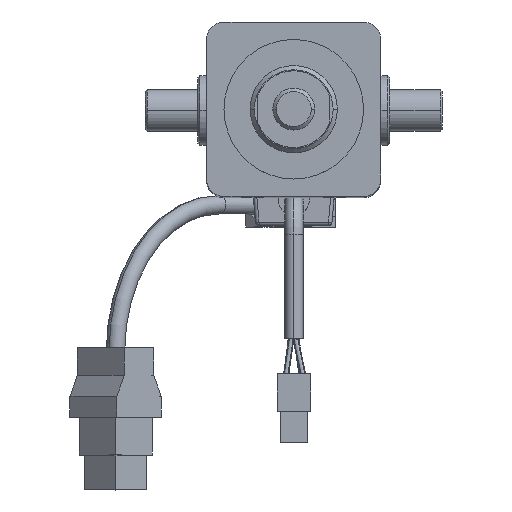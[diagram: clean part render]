
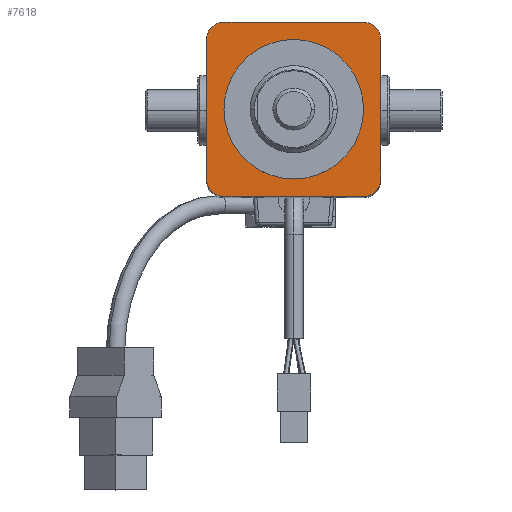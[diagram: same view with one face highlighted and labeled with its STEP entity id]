
A CAD part, top view. The second image highlights one B-rep face of the part: STEP entity #7618.
In plain terms, the highlighted planar face has unit normal (0, 0, 1).
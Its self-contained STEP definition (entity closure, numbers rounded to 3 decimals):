
#135 = AXIS2_PLACEMENT_3D ( 'NONE', #20269, #7885, #18479 ) ;
#388 = LINE ( 'NONE', #9747, #2814 ) ;
#612 = ORIENTED_EDGE ( 'NONE', *, *, #8496, .T. ) ;
#835 = DIRECTION ( 'NONE',  ( -1., 0., 0. ) ) ;
#995 = EDGE_CURVE ( 'NONE', #19955, #9451, #9742, .T. ) ;
#1802 = ORIENTED_EDGE ( 'NONE', *, *, #2890, .T. ) ;
#1936 = CARTESIAN_POINT ( 'NONE',  ( -20., 25., 182. ) ) ;
#2592 = ORIENTED_EDGE ( 'NONE', *, *, #995, .T. ) ;
#2648 = DIRECTION ( 'NONE',  ( 0., 0., 1. ) ) ;
#2724 = CARTESIAN_POINT ( 'NONE',  ( 20., 20., 182. ) ) ;
#2814 = VECTOR ( 'NONE', #18337, 1000. ) ;
#2890 = EDGE_CURVE ( 'NONE', #9451, #13181, #7240, .T. ) ;
#2897 = VECTOR ( 'NONE', #835, 1000. ) ;
#3364 = VERTEX_POINT ( 'NONE', #18752 ) ;
#3469 = DIRECTION ( 'NONE',  ( 1., 0., 0. ) ) ;
#3999 = CARTESIAN_POINT ( 'NONE',  ( -25., -20., 182. ) ) ;
#4659 = AXIS2_PLACEMENT_3D ( 'NONE', #8366, #18855, #4884 ) ;
#4884 = DIRECTION ( 'NONE',  ( 1., 0., 0. ) ) ;
#5146 = DIRECTION ( 'NONE',  ( 0., 0., 1. ) ) ;
#5337 = EDGE_CURVE ( 'NONE', #20496, #13791, #20725, .T. ) ;
#5687 = CARTESIAN_POINT ( 'NONE',  ( -25., 20., 182. ) ) ;
#5722 = DIRECTION ( 'NONE',  ( -1., 0., 0. ) ) ;
#5760 = DIRECTION ( 'NONE',  ( 0., -1., 0. ) ) ;
#5861 = LINE ( 'NONE', #12737, #19173 ) ;
#6158 = DIRECTION ( 'NONE',  ( -1., 0., 0. ) ) ;
#6201 = DIRECTION ( 'NONE',  ( -1., 0., 0. ) ) ;
#6252 = CARTESIAN_POINT ( 'NONE',  ( -25., 20., 182. ) ) ;
#6285 = VERTEX_POINT ( 'NONE', #1936 ) ;
#6299 = CIRCLE ( 'NONE', #18683, 5. ) ;
#6607 = CARTESIAN_POINT ( 'NONE',  ( 25., -20., 182. ) ) ;
#6674 = VERTEX_POINT ( 'NONE', #9997 ) ;
#7201 = CIRCLE ( 'NONE', #4659, 5. ) ;
#7240 = CIRCLE ( 'NONE', #9502, 5. ) ;
#7279 = VECTOR ( 'NONE', #5760, 1000. ) ;
#7618 = ADVANCED_FACE ( 'NONE', ( #8376, #8666 ), #20344, .T. ) ;
#7885 = DIRECTION ( 'NONE',  ( 0., 0., 1. ) ) ;
#7924 = CARTESIAN_POINT ( 'NONE',  ( 20., -20., 182. ) ) ;
#8307 = CIRCLE ( 'NONE', #135, 20. ) ;
#8366 = CARTESIAN_POINT ( 'NONE',  ( -20., 20., 182. ) ) ;
#8376 = FACE_OUTER_BOUND ( 'NONE', #9604, .T. ) ;
#8419 = DIRECTION ( 'NONE',  ( 1., 0., 0. ) ) ;
#8496 = EDGE_CURVE ( 'NONE', #6674, #6285, #9721, .T. ) ;
#8666 = FACE_BOUND ( 'NONE', #10823, .T. ) ;
#9451 = VERTEX_POINT ( 'NONE', #3999 ) ;
#9502 = AXIS2_PLACEMENT_3D ( 'NONE', #19634, #18047, #5722 ) ;
#9604 = EDGE_LOOP ( 'NONE', ( #11483, #2592, #1802, #17711, #16415, #9932, #21466, #612 ) ) ;
#9721 = LINE ( 'NONE', #11453, #2897 ) ;
#9742 = LINE ( 'NONE', #5687, #7279 ) ;
#9747 = CARTESIAN_POINT ( 'NONE',  ( 25., 20., 182. ) ) ;
#9932 = ORIENTED_EDGE ( 'NONE', *, *, #16401, .T. ) ;
#9951 = CARTESIAN_POINT ( 'NONE',  ( -20., 20., 182. ) ) ;
#9997 = CARTESIAN_POINT ( 'NONE',  ( 20., 25., 182. ) ) ;
#10090 = AXIS2_PLACEMENT_3D ( 'NONE', #17231, #5146, #3469 ) ;
#10767 = EDGE_CURVE ( 'NONE', #6285, #19955, #7201, .T. ) ;
#10823 = EDGE_LOOP ( 'NONE', ( #19247, #11179 ) ) ;
#11179 = ORIENTED_EDGE ( 'NONE', *, *, #18704, .F. ) ;
#11418 = DIRECTION ( 'NONE',  ( 0., 0., 1. ) ) ;
#11453 = CARTESIAN_POINT ( 'NONE',  ( 20., 25., 182. ) ) ;
#11483 = ORIENTED_EDGE ( 'NONE', *, *, #10767, .T. ) ;
#11623 = CARTESIAN_POINT ( 'NONE',  ( 20., 0., 182. ) ) ;
#12737 = CARTESIAN_POINT ( 'NONE',  ( 20., -25., 182. ) ) ;
#13181 = VERTEX_POINT ( 'NONE', #16136 ) ;
#13791 = VERTEX_POINT ( 'NONE', #6607 ) ;
#14470 = DIRECTION ( 'NONE',  ( 1., 0., 0. ) ) ;
#15255 = EDGE_CURVE ( 'NONE', #15297, #19969, #8307, .T. ) ;
#15297 = VERTEX_POINT ( 'NONE', #18917 ) ;
#15787 = EDGE_CURVE ( 'NONE', #13181, #20496, #5861, .T. ) ;
#16136 = CARTESIAN_POINT ( 'NONE',  ( -20., -25., 182. ) ) ;
#16401 = EDGE_CURVE ( 'NONE', #13791, #3364, #388, .T. ) ;
#16415 = ORIENTED_EDGE ( 'NONE', *, *, #5337, .T. ) ;
#17193 = CARTESIAN_POINT ( 'NONE',  ( 20., -25., 182. ) ) ;
#17231 = CARTESIAN_POINT ( 'NONE',  ( 0., 0., 182. ) ) ;
#17276 = AXIS2_PLACEMENT_3D ( 'NONE', #9951, #20485, #8419 ) ;
#17711 = ORIENTED_EDGE ( 'NONE', *, *, #15787, .T. ) ;
#17712 = CIRCLE ( 'NONE', #10090, 20. ) ;
#18047 = DIRECTION ( 'NONE',  ( 0., 0., 1. ) ) ;
#18337 = DIRECTION ( 'NONE',  ( 0., 1., 0. ) ) ;
#18479 = DIRECTION ( 'NONE',  ( 1., 0., 0. ) ) ;
#18540 = EDGE_CURVE ( 'NONE', #3364, #6674, #6299, .T. ) ;
#18683 = AXIS2_PLACEMENT_3D ( 'NONE', #2724, #2648, #6158 ) ;
#18704 = EDGE_CURVE ( 'NONE', #19969, #15297, #17712, .T. ) ;
#18752 = CARTESIAN_POINT ( 'NONE',  ( 25., 20., 182. ) ) ;
#18855 = DIRECTION ( 'NONE',  ( 0., 0., 1. ) ) ;
#18917 = CARTESIAN_POINT ( 'NONE',  ( -20., 0., 182. ) ) ;
#19173 = VECTOR ( 'NONE', #14470, 1000. ) ;
#19247 = ORIENTED_EDGE ( 'NONE', *, *, #15255, .F. ) ;
#19634 = CARTESIAN_POINT ( 'NONE',  ( -20., -20., 182. ) ) ;
#19955 = VERTEX_POINT ( 'NONE', #6252 ) ;
#19969 = VERTEX_POINT ( 'NONE', #11623 ) ;
#20269 = CARTESIAN_POINT ( 'NONE',  ( 0., 0., 182. ) ) ;
#20344 = PLANE ( 'NONE',  #17276 ) ;
#20419 = AXIS2_PLACEMENT_3D ( 'NONE', #7924, #11418, #6201 ) ;
#20485 = DIRECTION ( 'NONE',  ( 0., 0., 1. ) ) ;
#20496 = VERTEX_POINT ( 'NONE', #17193 ) ;
#20725 = CIRCLE ( 'NONE', #20419, 5. ) ;
#21466 = ORIENTED_EDGE ( 'NONE', *, *, #18540, .T. ) ;
